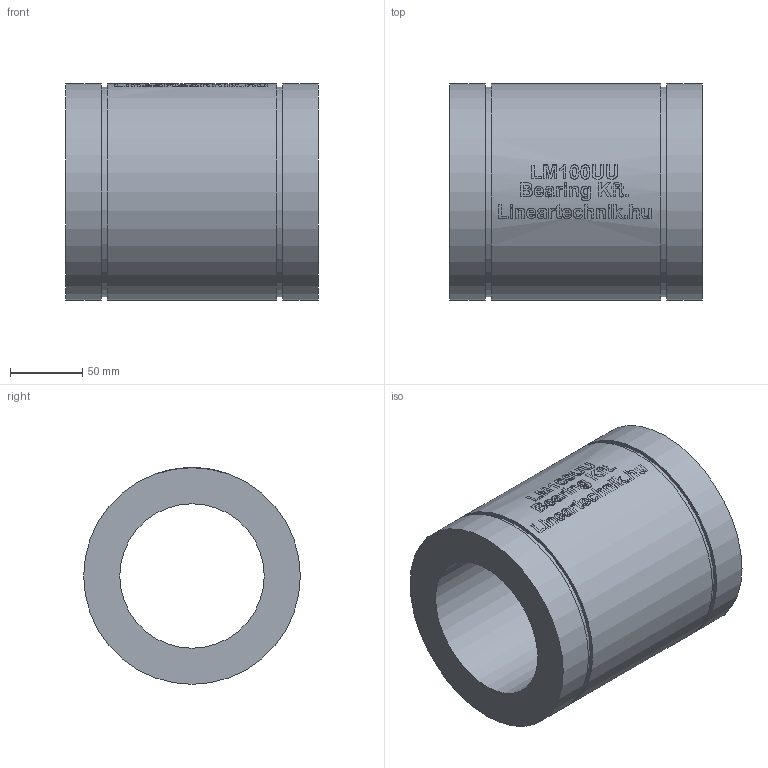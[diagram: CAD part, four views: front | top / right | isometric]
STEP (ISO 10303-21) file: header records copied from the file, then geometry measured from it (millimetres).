
FILE_DESCRIPTION(/* description */ ('Huosing for flange nuts'),/* implementation_level */ '2;1');
FILE_NAME(/* name */ 'LM100UU',/* time_stamp */ '2019-05-07T14:07:22+02:00',/* author */ ('VĂ©gh MĂˇtĂ©'),/* organization */ ('Bearing Kft'),/* preprocessor_version */ 'ST-DEVELOPER v16.7',/* originating_system */ 'DEX',/* authorisation */ $);
FILE_SCHEMA (('AUTOMOTIVE_DESIGN {1 0 10303 214 3 1 1}'));
Length unit declared in the file: millimetre
Products named in the file (1): LM100UU
Bounding box: 175 x 150 x 150 mm (x, y, z)
Volume: 1708326.8 mm3; surface area: 161706.7 mm2
Topology: 1 solids, 1 shells, 303 faces, 752 edges, 502 vertices
Faces by surface type: plane 156, bspline 94, cylinder 53
Full cylindrical faces by diameter (mm): 100 x1, 145 x2, 150 x3
Entity records: 26372 total; most frequent: CARTESIAN_POINT 19672, ORIENTED_EDGE 1478, DIRECTION 1111, EDGE_CURVE 739, VERTEX_POINT 500, LINE 407, VECTOR 407, EDGE_LOOP 367
